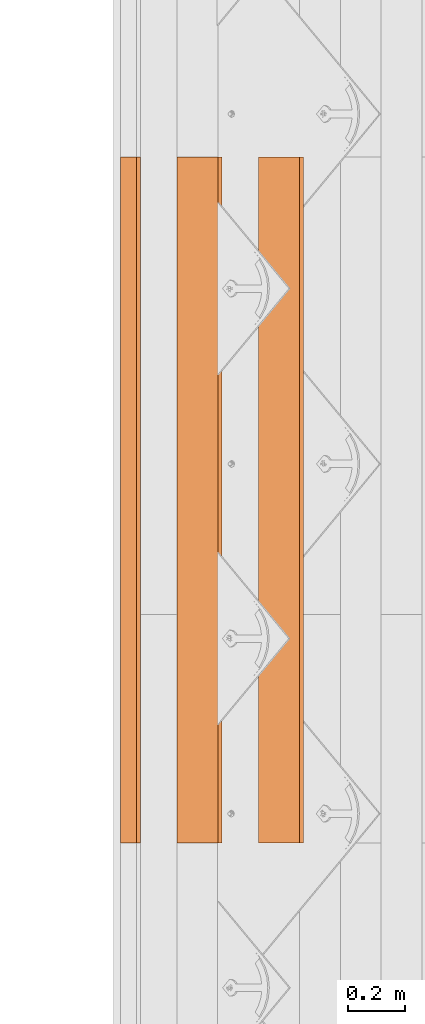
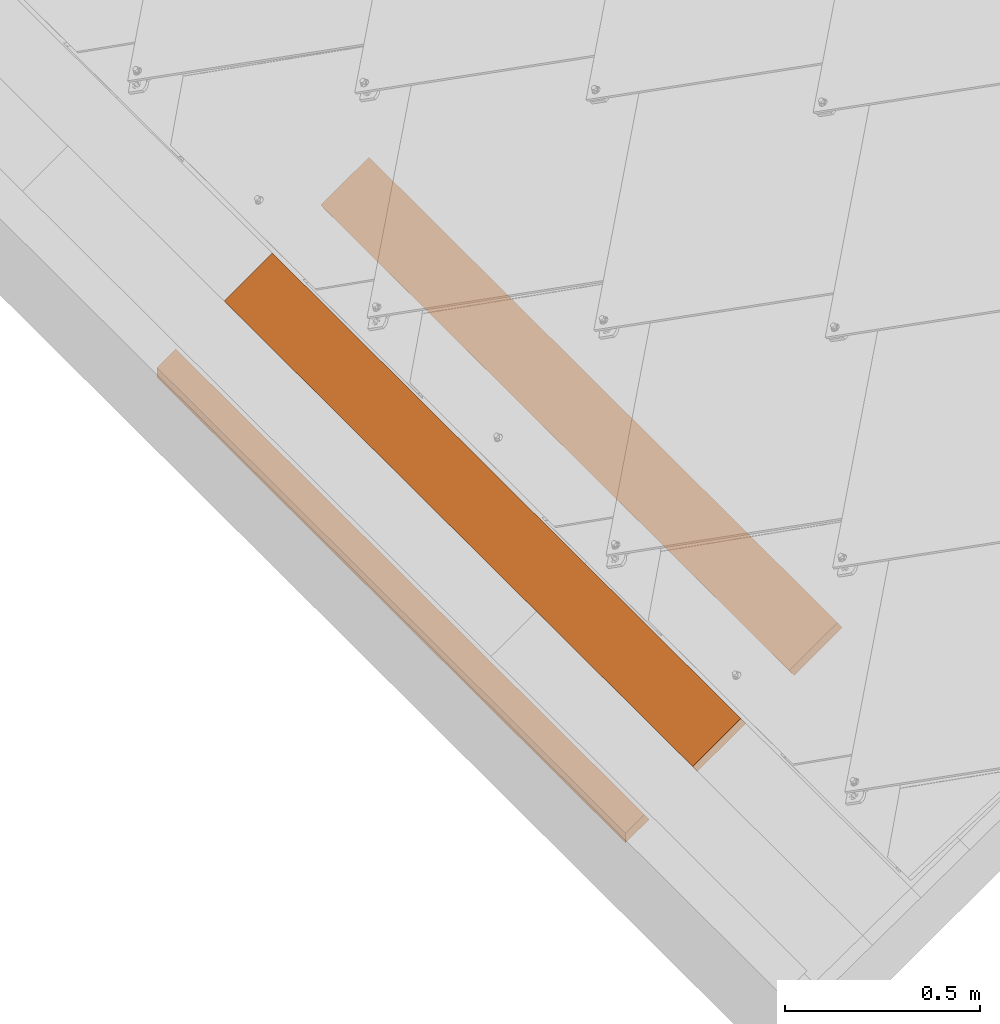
# One storey, part 46 of 151: 3 proxies, 1 element without a shape of its own.
"""IFC2X3 building model written with IfcOpenShell, lengths in millimetres."""

from ifc_helpers import new_model, entity, si_unit, converted_unit, derived_unit, direction, frame, frame_2d, origin, place, context, subcontext, project, spatial, polyline, rectangle, outline, extrude, source, transform, mapped, material, type_object, type_shapes, element, aggregate, save


model = new_model("IFC2X3")

# Units and contexts
model_context = context("Model", 3, precision=0.01, world=origin(), true_north=direction((6.12303176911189e-17, 1.0)))
body_context = subcontext(model_context, "Body", "Model", "MODEL_VIEW")
ifc_project = project(units=[si_unit("LENGTHUNIT", "METRE", prefix="MILLI"), si_unit("AREAUNIT", "SQUARE_METRE"), si_unit("VOLUMEUNIT", "CUBIC_METRE"), converted_unit("PLANEANGLEUNIT", "DEGREE", entity("IfcRatioMeasure", 0.0174532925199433), si_unit("PLANEANGLEUNIT", "RADIAN"), dimensions=[0, 0, 0, 0, 0, 0, 0]), si_unit("MASSUNIT", "GRAM", prefix="KILO"), derived_unit("MASSDENSITYUNIT", [(si_unit("MASSUNIT", "GRAM", prefix="KILO"), 1), (si_unit("LENGTHUNIT", "METRE"), -3)]), si_unit("TIMEUNIT", "SECOND"), si_unit("FREQUENCYUNIT", "HERTZ"), si_unit("THERMODYNAMICTEMPERATUREUNIT", "DEGREE_CELSIUS"), derived_unit("THERMALTRANSMITTANCEUNIT", [(si_unit("MASSUNIT", "GRAM", prefix="KILO"), 1), (si_unit("THERMODYNAMICTEMPERATUREUNIT", "KELVIN"), -1), (si_unit("TIMEUNIT", "SECOND"), -3)]), derived_unit("VOLUMETRICFLOWRATEUNIT", [(si_unit("LENGTHUNIT", "METRE"), 3), (si_unit("TIMEUNIT", "SECOND"), -1)]), si_unit("ELECTRICCURRENTUNIT", "AMPERE"), si_unit("ELECTRICVOLTAGEUNIT", "VOLT"), si_unit("POWERUNIT", "WATT"), si_unit("FORCEUNIT", "NEWTON", prefix="KILO"), si_unit("ILLUMINANCEUNIT", "LUX"), si_unit("LUMINOUSFLUXUNIT", "LUMEN"), si_unit("LUMINOUSINTENSITYUNIT", "CANDELA"), derived_unit("USERDEFINED", [(si_unit("MASSUNIT", "GRAM", prefix="KILO"), -1), (si_unit("LENGTHUNIT", "METRE"), -2), (si_unit("TIMEUNIT", "SECOND"), 3), (si_unit("LUMINOUSFLUXUNIT", "LUMEN"), 1)]), derived_unit("LINEARVELOCITYUNIT", [(si_unit("LENGTHUNIT", "METRE"), 1), (si_unit("TIMEUNIT", "SECOND"), -1)]), si_unit("PRESSUREUNIT", "PASCAL"), derived_unit("USERDEFINED", [(si_unit("LENGTHUNIT", "METRE"), -2), (si_unit("MASSUNIT", "GRAM", prefix="KILO"), 1), (si_unit("TIMEUNIT", "SECOND"), -2)])], contexts=[model_context])

# Site, building, storey
site_placement = place(None, origin())
site = spatial("IfcSite", under=ifc_project, at=site_placement, Name="Default", CompositionType="ELEMENT")
building_placement = place(site_placement, origin())
building = spatial("IfcBuilding", under=site, at=building_placement, CompositionType="ELEMENT")
storey_placement = place(building_placement, origin())
storey = spatial("IfcBuildingStorey", under=building, at=storey_placement, Name="Level 1", CompositionType="ELEMENT", Elevation=0.0)

# Assembly, proxies
assembly_placement = place(storey_placement, origin())
assembly = element("IfcElementAssembly", 1, at=assembly_placement, inside=storey, Name="Structural Framing Assembly:Roof Construction Assembly", ObjectType="Structural Framing Assembly:Roof Construction Assembly", AssemblyPlace="NOTDEFINED", PredefinedType="USERDEFINED")
ifc_material = material(Name="Wood - Generic - Wood For Showcase")
building_element_proxy_type_1 = type_object("IfcBuildingElementProxyType", Name="Structural Framing 15", PredefinedType="NOTDEFINED", material=ifc_material)
shared_shape_1 = source(origin(), body_context, "Body", "SweptSolid", [
    extrude(rectangle(XDim=24.9999999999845, YDim=174.344679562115, at=frame_2d((-1.77635683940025e-13, -4.54747350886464e-13), x_axis=(0.0, 1.0))), frame((1128.20180147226, 1595.55080214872, 2760.23940055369), z_axis=(0.0, 1.0, 0.0), x_axis=(-0.819152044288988, 0.0, -0.573576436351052)), (0.0, 0.0, 1.0), 2400.0),
])
type_shapes(building_element_proxy_type_1, [shared_shape_1])
proxy_1_placement = place(assembly_placement, frame((-3227.25254439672, -3340.0, -2300.0)))
proxy_1 = element("IfcBuildingElementProxy", 2, at=proxy_1_placement, type_object=building_element_proxy_type_1, material=ifc_material, Name="Structural Framing 131:Structural Framing 15", ObjectType="Structural Framing 131:Structural Framing 15", context=body_context, shape_type="MappedRepresentation", body=[
    mapped(shared_shape_1, transform((0.0, 0.0, 0.0), scale=1.0)),
])
building_element_proxy_type_2 = type_object("IfcBuildingElementProxyType", Name="Structural Framing 15", PredefinedType="NOTDEFINED", material=ifc_material)
shared_shape_2 = source(origin(), body_context, "Body", "SweptSolid", [
    extrude(rectangle(XDim=24.9999999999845, YDim=174.344679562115, at=frame_2d((-1.77635683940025e-13, -4.54747350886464e-13), x_axis=(0.0, 1.0))), frame((1128.20180147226, 1595.55080214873, 2760.23940055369), z_axis=(0.0, 1.0, 0.0), x_axis=(-0.819152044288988, 0.0, -0.573576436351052)), (0.0, 0.0, 1.0), 2400.0),
])
type_shapes(building_element_proxy_type_2, [shared_shape_2])
proxy_2_placement = place(assembly_placement, frame((-3512.88214574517, -3340.0, -2500.0)))
proxy_2 = element("IfcBuildingElementProxy", 3, at=proxy_2_placement, type_object=building_element_proxy_type_2, material=ifc_material, Name="Structural Framing 141:Structural Framing 15", ObjectType="Structural Framing 141:Structural Framing 15", context=body_context, shape_type="MappedRepresentation", body=[
    mapped(shared_shape_2, transform((0.0, 0.0, 0.0), scale=1.0)),
])
building_element_proxy_type_3 = type_object("IfcBuildingElementProxyType", Name="Structural Framing 15", PredefinedType="NOTDEFINED", material=ifc_material)
shared_shape_3 = source(origin(), body_context, "Body", "SweptSolid", [
    extrude(outline(polyline([(-38.2231230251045, -12.4999999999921), (46.9757172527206, -12.4999999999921), (29.4705287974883, 12.4999999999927), (-38.2231230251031, 12.4999999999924), (-38.2231230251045, -12.4999999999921)])), frame((-2687.70096575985, -6581.94919785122, 88.315517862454), z_axis=(0.0, 1.0, 0.0), x_axis=(-0.81915204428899, 0.0, -0.573576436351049)), (0.0, 0.0, 1.0), 2400.0),
])
type_shapes(building_element_proxy_type_3, [shared_shape_3])
proxy_3_placement = place(assembly_placement, frame((57.4878711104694, 4837.49999999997, 0.0)))
proxy_3 = element("IfcBuildingElementProxy", 4, at=proxy_3_placement, type_object=building_element_proxy_type_3, material=ifc_material, Name="Structural Framing 152:Structural Framing 15", ObjectType="Structural Framing 152:Structural Framing 15", context=body_context, shape_type="MappedRepresentation", body=[
    mapped(shared_shape_3, transform((0.0, 0.0, 0.0), scale=1.0)),
])
aggregate(assembly, [proxy_1, proxy_2, proxy_3])

save(model, "model.ifc")
